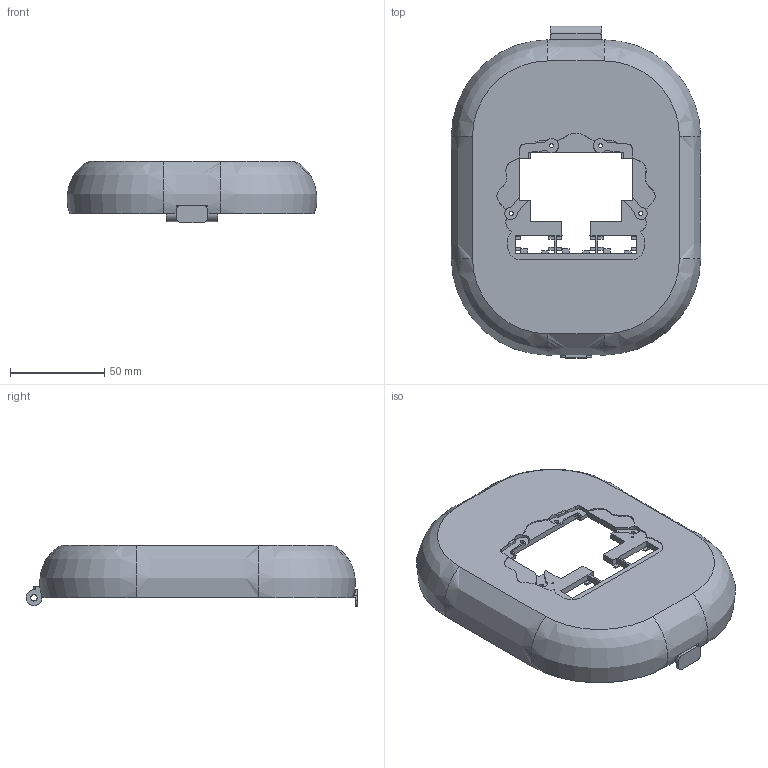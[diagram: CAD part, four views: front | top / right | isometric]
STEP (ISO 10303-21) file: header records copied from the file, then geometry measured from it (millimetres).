
FILE_DESCRIPTION(('FreeCAD Model'),'2;1');
FILE_NAME('Open CASCADE Shape Model','2026-11-13T18:41:52',('FreeCAD'),( 'FreeCAD'),'Open CASCADE STEP processor 7.8','FreeCAD','Unknown');
FILE_SCHEMA(('AUTOMOTIVE_DESIGN { 1 0 10303 214 1 1 1 1 }'));
Length unit declared in the file: millimetre
Products named in the file (1): Open CASCADE STEP translator 7.8 2
Bounding box: 132.64 x 176.44 x 32.5 mm (x, y, z)
Volume: 94962 mm3; surface area: 58512.8 mm2
Topology: 1 solids, 1 shells, 328 faces, 844 edges, 552 vertices
Faces by surface type: plane 225, cylinder 79, bspline 16, extrusion 8
Full cylindrical faces by diameter (mm): 1 x12, 1.6 x1, 2.2 x4, 3.4 x1, 5.2 x16, 7.6 x4
Entity records: 19158 total; most frequent: CARTESIAN_POINT 11229, ORIENTED_EDGE 1688, DIRECTION 1541, EDGE_CURVE 844, VECTOR 575, LINE 567, VERTEX_POINT 552, AXIS2_PLACEMENT_3D 483
